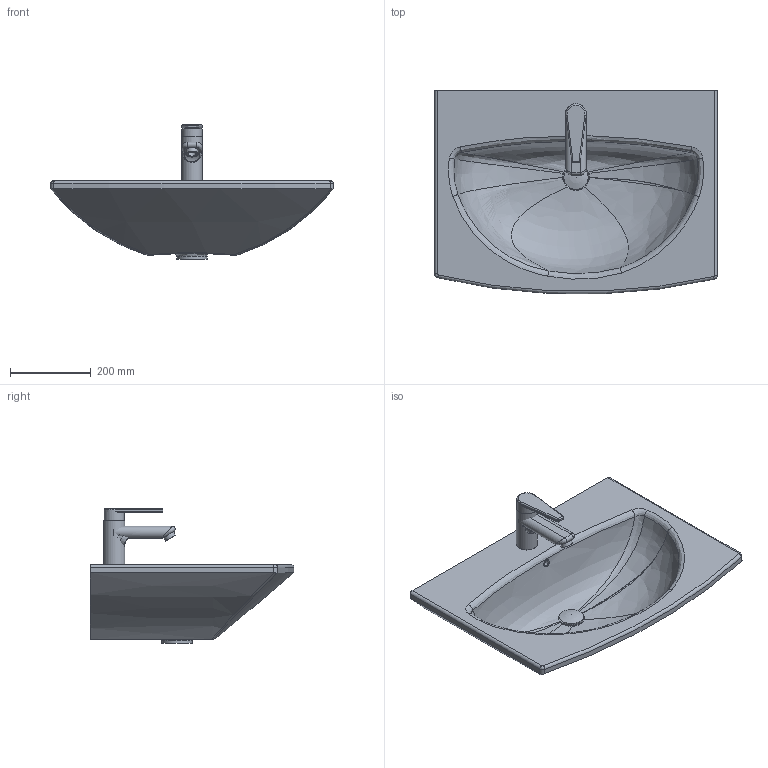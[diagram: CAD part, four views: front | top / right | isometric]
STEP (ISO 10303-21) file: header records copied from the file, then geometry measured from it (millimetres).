
FILE_DESCRIPTION((''),'2;1');
FILE_NAME('C:\Dokumente und Einstellungen\Huebner\Eigene Dateien\PRIVAT3\3D\CARO\CARO_STEP\043470.stp','2008-01-14T17:59:15',('Huebner'),(''),'Autodesk Inventor 11','Autodesk Inventor 11','');
FILE_SCHEMA(('AUTOMOTIVE_DESIGN { 1 0 10303 214 1 1 1 1 }'));
Length unit declared in the file: millimetre
Products named in the file (10): 43470; Kelch; Stopfen; Baterie_CARO_Wasch; hebel1; Neoperl; Hebel2; hebel4; hebel5Kugel
Assembly tree (9 placements, depth 3):
  43470
    43470
    Kelch
    Stopfen
    Baterie_CARO_Wasch
      hebel1
      Neoperl
      Hebel2
      hebel4
      hebel5Kugel
Bounding box: 700 x 503.8 x 334 mm (x, y, z)
Volume: 21156352.8 mm3; surface area: 1170278.8 mm2
Topology: 8 solids, 8 shells, 158 faces, 379 edges, 237 vertices
Faces by surface type: cylinder 49, plane 49, bspline 42, torus 9, sphere 5, cone 4
Full cylindrical faces by diameter (mm): 15 x3, 20 x1, 29 x1, 30 x1, 42 x1, 44 x1, 46 x1, 50 x1, 52 x2, 60 x1, 75 x1
Entity records: 11620 total; most frequent: CARTESIAN_POINT 8052, ORIENTED_EDGE 690, DIRECTION 651, EDGE_CURVE 345, AXIS2_PLACEMENT_3D 267, VERTEX_POINT 230, EDGE_LOOP 193, FACE_OUTER_BOUND 158
